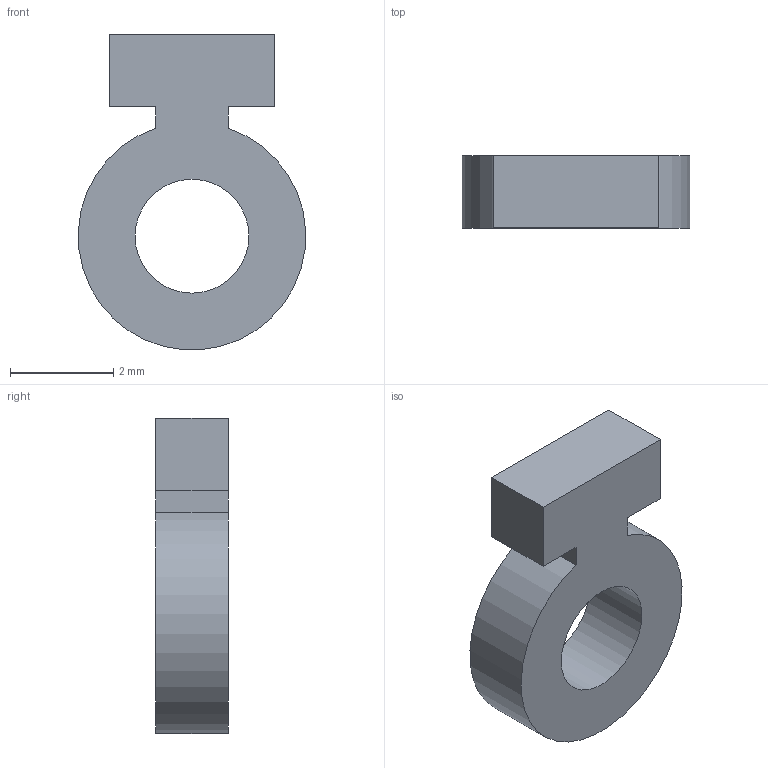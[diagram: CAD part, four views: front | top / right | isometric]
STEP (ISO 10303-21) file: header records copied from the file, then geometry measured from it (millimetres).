
FILE_DESCRIPTION(('Open CASCADE Model'),'2;1');
FILE_NAME('PCB_EDGE_CLIP_1','2026-09-06T11:49:22',('Author'),( 'Open CASCADE'),'Open CASCADE STEP processor 7.8','build123d', 'Unknown');
FILE_SCHEMA(('AUTOMOTIVE_DESIGN { 1 0 10303 214 1 1 1 1 }'));
Length unit declared in the file: millimetre
Products named in the file (2): =>[0:1:1:2]; PCB_EDGE_CLIP_1
Assembly tree (1 placements, depth 2):
  =>[0:1:1:2]
    PCB_EDGE_CLIP_1
Bounding box: 4.39 x 1.4 x 6.09 mm (x, y, z)
Volume: 22.9 mm3; surface area: 71.8 mm2
Topology: 1 solids, 1 shells, 11 faces, 27 edges, 18 vertices
Faces by surface type: plane 9, cylinder 2
Full cylindrical faces by diameter (mm): 2.2 x1
Entity records: 712 total; most frequent: CARTESIAN_POINT 126, DIRECTION 107, LINE 71, VECTOR 71, ORIENTED_EDGE 54, PCURVE 54, DEFINITIONAL_REPRESENTATION 54, EDGE_CURVE 27
